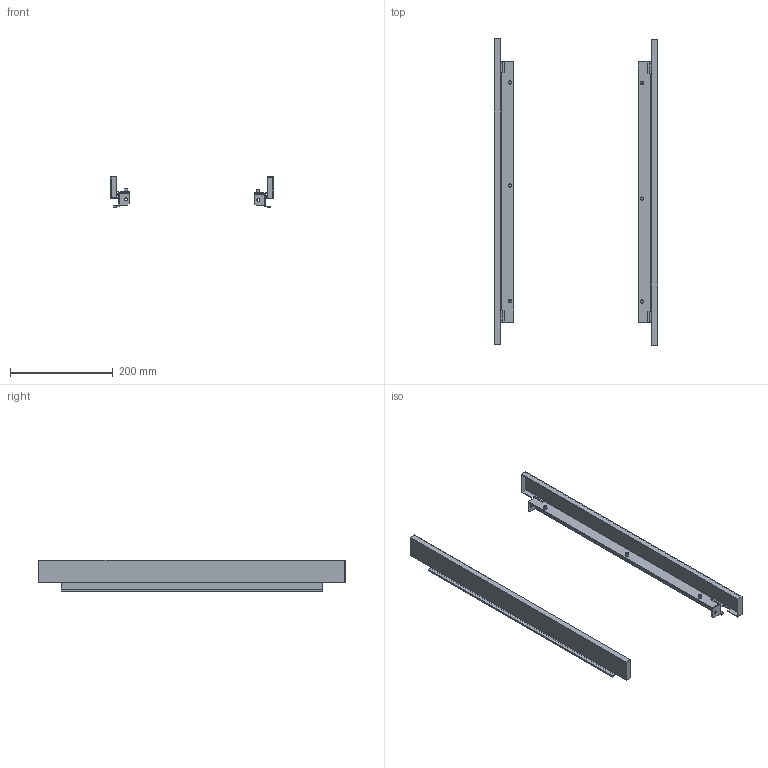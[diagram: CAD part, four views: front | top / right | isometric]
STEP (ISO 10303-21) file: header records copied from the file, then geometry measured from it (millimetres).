
FILE_DESCRIPTION (( 'STEP AP214' ), '1' );
FILE_NAME ('FO-00-PWSK-060 Ôàëüø-ïàíåëü êîìïåíñàöèîííàÿ øèðèíà 600 ìì (2 øò óïàê).STEP', '2025-07-14T08:23:56', ( '' ), ( '' ), 'SwSTEP 2.0', 'SolidWorks 2023', '' );
FILE_SCHEMA (( 'AUTOMOTIVE_DESIGN' ));
Length unit declared in the file: millimetre
Products named in the file (2): FO-00-PWSK-060 Фальш-панель компенсационная ширина 600 мм (2 шт упак); FO-00-PWSK-060 Фальш-панель компенсационная ширина 600 мм
Assembly tree (2 placements, depth 2):
  FO-00-PWSK-060 Фальш-панель компенсационная ширина 600 мм (2 шт упак)
    FO-00-PWSK-060 Фальш-панель компенсационная ширина 600 мм  x2
Bounding box: 317.13 x 595.86 x 61.35 mm (x, y, z)
Volume: 261774.1 mm3; surface area: 294160.7 mm2
Topology: 2 solids, 2 shells, 342 faces, 890 edges, 576 vertices
Faces by surface type: plane 160, cylinder 134, cone 24, torus 24
Entity records: 5332 total; most frequent: DIRECTION 967, CARTESIAN_POINT 909, ORIENTED_EDGE 890, EDGE_CURVE 445, AXIS2_PLACEMENT_3D 346, VERTEX_POINT 288, LINE 275, VECTOR 275
